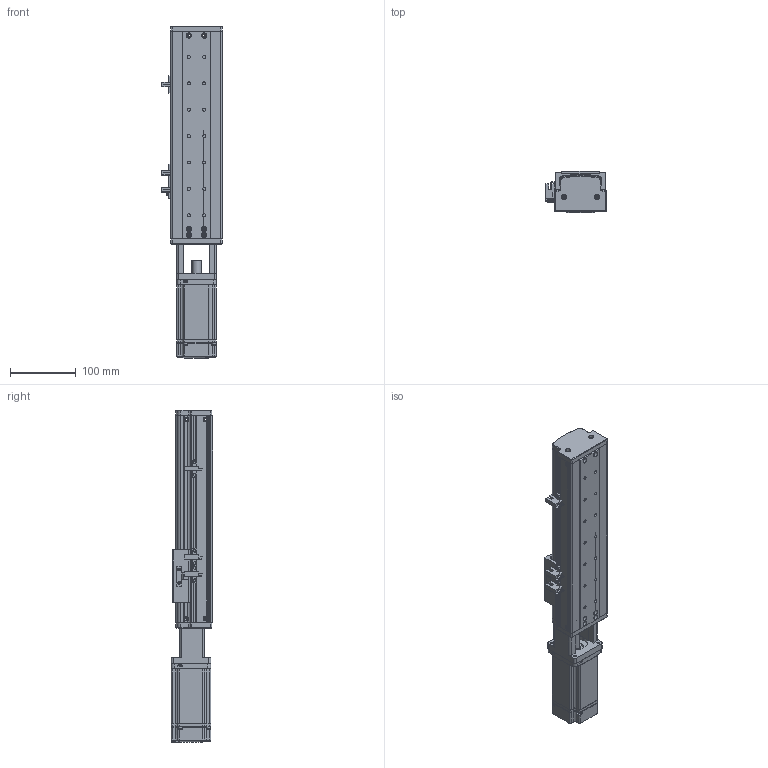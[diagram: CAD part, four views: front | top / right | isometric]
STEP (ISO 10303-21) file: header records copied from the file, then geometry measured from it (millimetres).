
FILE_DESCRIPTION (( 'STEP AP214' ), '1' );
FILE_NAME ('KSD75S-S160-MT-CM.STEP', '2019-10-18T07:29:46', ( '微软用户' ), ( '微软中国' ), 'SwSTEP 2.0', 'SolidWorks 2014', '' );
FILE_SCHEMA (( 'AUTOMOTIVE_DESIGN' ));
Length unit declared in the file: millimetre
Products named in the file (12): MHMD042G1CA_2_03; 覜茼え100遵圉猾敕; U倰嫖萇EEㄜSX672; 綴傷啣 ; 100遵鎮湛假蚾啣1 ; ヶ傷啣; 75裔啣-160俴最; 75遵耀郪耜啣-160俴最; 75遵賑雄釱; MGW15H賑寢160俴最 ; MGW15H賑寢160俴最; KSD75S-S160-MT-CM
Assembly tree (14 placements, depth 3):
  KSD75S-S160-MT-CM
    MGW15H賑寢160俴最 
      MGW15H賑寢160俴最
    75遵賑雄釱
    75遵耀郪耜啣-160俴最  x2
    75裔啣-160俴最
    ヶ傷啣
    100遵鎮湛假蚾啣1 
    綴傷啣 
    U倰嫖萇EEㄜSX672  x3
    覜茼え100遵圉猾敕
    MHMD042G1CA_2_03
Bounding box: 91.7 x 63 x 503.5 mm (x, y, z)
Volume: 544388.1 mm3; surface area: 337852.4 mm2
Topology: 12 solids, 13 shells, 1346 faces, 3837 edges, 2499 vertices
Faces by surface type: cylinder 612, plane 587, cone 129, bspline 18
Entity records: 43356 total; most frequent: CARTESIAN_POINT 8297, DIRECTION 6313, ORIENTED_EDGE 5954, EDGE_CURVE 3048, AXIS2_PLACEMENT_3D 2294, VERTEX_POINT 2017, LINE 1725, VECTOR 1725
